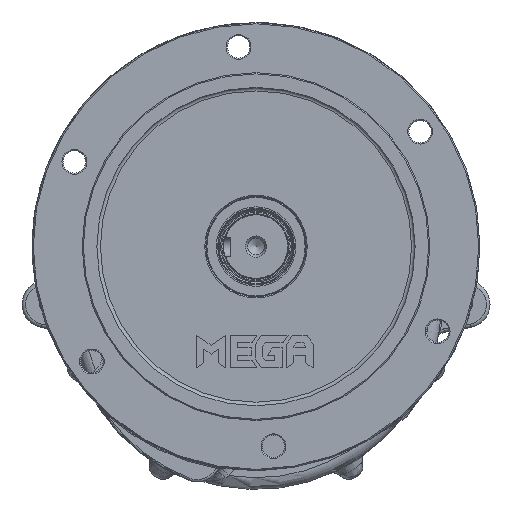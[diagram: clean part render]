
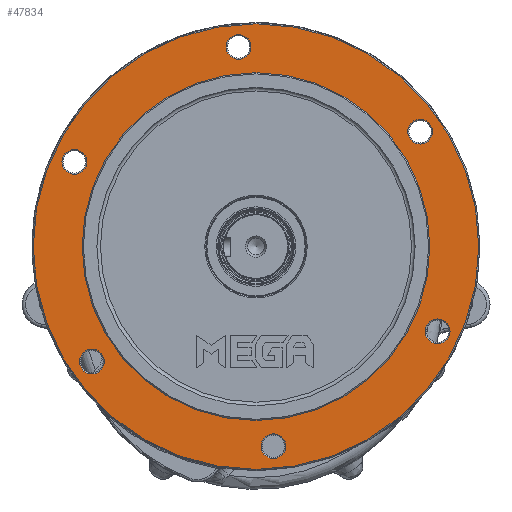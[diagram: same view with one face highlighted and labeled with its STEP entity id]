
A CAD part, front view. The second image highlights one B-rep face of the part: STEP entity #47834.
In plain terms, the highlighted planar face has unit normal (0, -1, 0).
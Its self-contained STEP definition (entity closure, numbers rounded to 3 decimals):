
#894=FACE_BOUND('',#6300,.T.);
#895=FACE_BOUND('',#6301,.T.);
#896=FACE_BOUND('',#6302,.T.);
#897=FACE_BOUND('',#6303,.T.);
#898=FACE_BOUND('',#6304,.T.);
#899=FACE_BOUND('',#6305,.T.);
#900=FACE_BOUND('',#6306,.T.);
#1426=PLANE('',#51681);
#3293=FACE_OUTER_BOUND('',#6299,.T.);
#6299=EDGE_LOOP('',(#33848));
#6300=EDGE_LOOP('',(#33849));
#6301=EDGE_LOOP('',(#33850));
#6302=EDGE_LOOP('',(#33851));
#6303=EDGE_LOOP('',(#33852));
#6304=EDGE_LOOP('',(#33853));
#6305=EDGE_LOOP('',(#33854));
#6306=EDGE_LOOP('',(#33855));
#9453=CIRCLE('',#51678,10.5);
#9456=CIRCLE('',#51682,189.);
#9457=CIRCLE('',#51683,10.5);
#9458=CIRCLE('',#51684,10.5);
#9459=CIRCLE('',#51685,10.5);
#9460=CIRCLE('',#51686,147.5);
#9461=CIRCLE('',#51687,10.5);
#9462=CIRCLE('',#51688,10.5);
#19798=VERTEX_POINT('',#75578);
#19801=VERTEX_POINT('',#75586);
#19802=VERTEX_POINT('',#75588);
#19803=VERTEX_POINT('',#75590);
#19804=VERTEX_POINT('',#75592);
#19805=VERTEX_POINT('',#75594);
#19806=VERTEX_POINT('',#75596);
#19807=VERTEX_POINT('',#75598);
#24830=EDGE_CURVE('',#19798,#19798,#9453,.T.);
#24834=EDGE_CURVE('',#19801,#19801,#9456,.T.);
#24835=EDGE_CURVE('',#19802,#19802,#9457,.T.);
#24836=EDGE_CURVE('',#19803,#19803,#9458,.T.);
#24837=EDGE_CURVE('',#19804,#19804,#9459,.T.);
#24838=EDGE_CURVE('',#19805,#19805,#9460,.T.);
#24839=EDGE_CURVE('',#19806,#19806,#9461,.T.);
#24840=EDGE_CURVE('',#19807,#19807,#9462,.T.);
#33848=ORIENTED_EDGE('',*,*,#24834,.F.);
#33849=ORIENTED_EDGE('',*,*,#24835,.F.);
#33850=ORIENTED_EDGE('',*,*,#24836,.F.);
#33851=ORIENTED_EDGE('',*,*,#24837,.F.);
#33852=ORIENTED_EDGE('',*,*,#24838,.F.);
#33853=ORIENTED_EDGE('',*,*,#24839,.F.);
#33854=ORIENTED_EDGE('',*,*,#24840,.F.);
#33855=ORIENTED_EDGE('',*,*,#24830,.F.);
#47834=ADVANCED_FACE('',(#3293,#894,#895,#896,#897,#898,#899,#900),#1426,
 .T.);
#51678=AXIS2_PLACEMENT_3D('',#75579,#60035,#60036);
#51681=AXIS2_PLACEMENT_3D('',#75585,#60042,#60043);
#51682=AXIS2_PLACEMENT_3D('',#75587,#60044,#60045);
#51683=AXIS2_PLACEMENT_3D('',#75589,#60046,#60047);
#51684=AXIS2_PLACEMENT_3D('',#75591,#60048,#60049);
#51685=AXIS2_PLACEMENT_3D('',#75593,#60050,#60051);
#51686=AXIS2_PLACEMENT_3D('',#75595,#60052,#60053);
#51687=AXIS2_PLACEMENT_3D('',#75597,#60054,#60055);
#51688=AXIS2_PLACEMENT_3D('',#75599,#60056,#60057);
#60035=DIRECTION('center_axis',(0.,-1.,0.));
#60036=DIRECTION('ref_axis',(-0.5,0.,-0.866));
#60042=DIRECTION('center_axis',(0.,-1.,0.));
#60043=DIRECTION('ref_axis',(0.,0.,-1.));
#60044=DIRECTION('center_axis',(0.,1.,0.));
#60045=DIRECTION('ref_axis',(-1.,0.,0.));
#60046=DIRECTION('center_axis',(0.,-1.,0.));
#60047=DIRECTION('ref_axis',(0.5,0.,-0.866));
#60048=DIRECTION('center_axis',(0.,-1.,0.));
#60049=DIRECTION('ref_axis',(0.5,0.,0.866));
#60050=DIRECTION('center_axis',(0.,-1.,0.));
#60051=DIRECTION('ref_axis',(-1.,0.,0.));
#60052=DIRECTION('center_axis',(0.,-1.,0.));
#60053=DIRECTION('ref_axis',(-1.,0.,0.));
#60054=DIRECTION('center_axis',(0.,-1.,0.));
#60055=DIRECTION('ref_axis',(-0.5,0.,0.866));
#60056=DIRECTION('center_axis',(0.,-1.,0.));
#60057=DIRECTION('ref_axis',(1.,0.,0.));
#75578=CARTESIAN_POINT('',(-161.513,-205.758,128.188));
#75579=CARTESIAN_POINT('Origin',(-166.763,-205.758,119.095));
#75585=CARTESIAN_POINT('Origin',(-12.691,-205.758,47.25));
#75586=CARTESIAN_POINT('',(176.309,-205.758,47.25));
#75587=CARTESIAN_POINT('Origin',(-12.691,-205.758,47.25));
#75588=CARTESIAN_POINT('',(-157.197,-205.758,-41.165));
#75589=CARTESIAN_POINT('Origin',(-151.947,-205.758,-50.258));
#75590=CARTESIAN_POINT('',(136.131,-205.758,-33.688));
#75591=CARTESIAN_POINT('Origin',(141.381,-205.758,-24.595));
#75592=CARTESIAN_POINT('',(-17.008,-205.758,216.603));
#75593=CARTESIAN_POINT('Origin',(-27.508,-205.758,216.603));
#75594=CARTESIAN_POINT('',(134.809,-205.758,47.25));
#75595=CARTESIAN_POINT('Origin',(-12.691,-205.758,47.25));
#75596=CARTESIAN_POINT('',(131.815,-205.758,135.665));
#75597=CARTESIAN_POINT('Origin',(126.565,-205.758,144.758));
#75598=CARTESIAN_POINT('',(-8.375,-205.758,-122.103));
#75599=CARTESIAN_POINT('Origin',(2.125,-205.758,-122.103));
